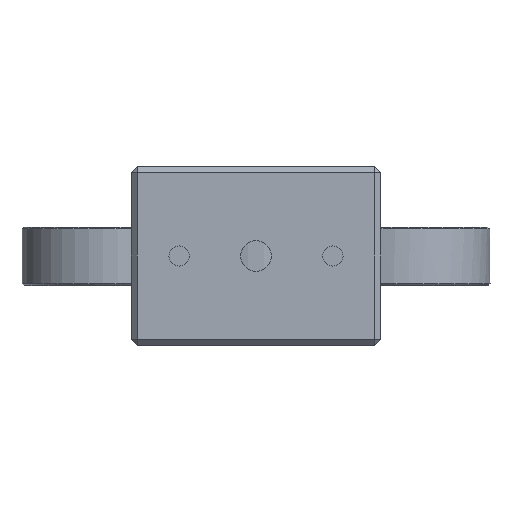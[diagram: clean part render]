
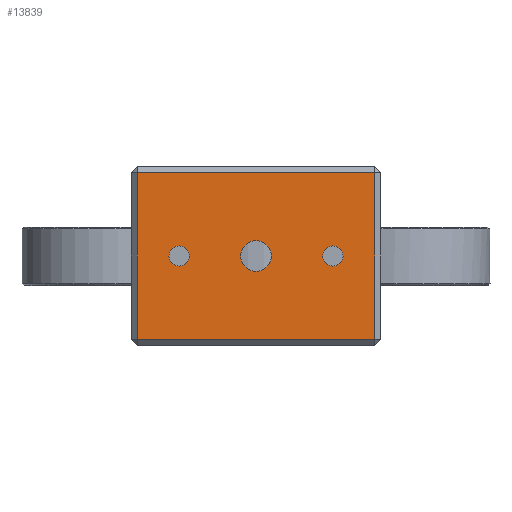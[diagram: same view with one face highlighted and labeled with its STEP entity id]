
A CAD part, front view. The second image highlights one B-rep face of the part: STEP entity #13839.
In plain terms, the highlighted planar face has unit normal (0, -1, 0).
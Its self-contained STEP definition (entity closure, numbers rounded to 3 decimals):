
#15 = VERTEX_POINT ( 'NONE', #321 ) ;
#72 = EDGE_CURVE ( 'NONE', #8073, #19564, #811, .T. ) ;
#74 = FACE_OUTER_BOUND ( 'NONE', #13796, .T. ) ;
#286 = EDGE_LOOP ( 'NONE', ( #15670, #4358 ) ) ;
#321 = CARTESIAN_POINT ( 'NONE',  ( -12.5, 0., -1.65 ) ) ;
#811 = LINE ( 'NONE', #19183, #19359 ) ;
#929 = VERTEX_POINT ( 'NONE', #17205 ) ;
#940 = EDGE_CURVE ( 'NONE', #8424, #12593, #11294, .T. ) ;
#1093 = EDGE_CURVE ( 'NONE', #19564, #929, #11899, .T. ) ;
#1250 = AXIS2_PLACEMENT_3D ( 'NONE', #12526, #11317, #1891 ) ;
#1538 = AXIS2_PLACEMENT_3D ( 'NONE', #6298, #8019, #4585 ) ;
#1891 = DIRECTION ( 'NONE',  ( 0., 0., -1. ) ) ;
#1954 = EDGE_CURVE ( 'NONE', #15, #8237, #18413, .T. ) ;
#2097 = ORIENTED_EDGE ( 'NONE', *, *, #72, .T. ) ;
#2184 = ORIENTED_EDGE ( 'NONE', *, *, #16082, .T. ) ;
#2234 = DIRECTION ( 'NONE',  ( 0., 0., -1. ) ) ;
#2899 = EDGE_LOOP ( 'NONE', ( #19398, #6167 ) ) ;
#3211 = DIRECTION ( 'NONE',  ( 0., 0., 1. ) ) ;
#3414 = DIRECTION ( 'NONE',  ( 0., 1., 0. ) ) ;
#3606 = CIRCLE ( 'NONE', #9095, 2.5 ) ;
#3816 = CIRCLE ( 'NONE', #1538, 2.5 ) ;
#4039 = CARTESIAN_POINT ( 'NONE',  ( 0., 0., 0. ) ) ;
#4358 = ORIENTED_EDGE ( 'NONE', *, *, #19006, .F. ) ;
#4575 = CIRCLE ( 'NONE', #7150, 1.65 ) ;
#4585 = DIRECTION ( 'NONE',  ( 0., 0., -1. ) ) ;
#4712 = ORIENTED_EDGE ( 'NONE', *, *, #1954, .F. ) ;
#4729 = CARTESIAN_POINT ( 'NONE',  ( 0., 0., 14.5 ) ) ;
#4824 = CARTESIAN_POINT ( 'NONE',  ( 12.5, 0., -1.65 ) ) ;
#5058 = CARTESIAN_POINT ( 'NONE',  ( 19.3, 0., 14.5 ) ) ;
#5531 = CARTESIAN_POINT ( 'NONE',  ( 0., 0., 2.5 ) ) ;
#6009 = DIRECTION ( 'NONE',  ( 1., 0., 0. ) ) ;
#6167 = ORIENTED_EDGE ( 'NONE', *, *, #10319, .F. ) ;
#6266 = CARTESIAN_POINT ( 'NONE',  ( -12.5, 0., 0. ) ) ;
#6298 = CARTESIAN_POINT ( 'NONE',  ( 0., 0., 0. ) ) ;
#6502 = CARTESIAN_POINT ( 'NONE',  ( 19.3, 0., 13.5 ) ) ;
#7066 = AXIS2_PLACEMENT_3D ( 'NONE', #4729, #3414, #3211 ) ;
#7090 = CARTESIAN_POINT ( 'NONE',  ( 19.3, 0., -13.5 ) ) ;
#7150 = AXIS2_PLACEMENT_3D ( 'NONE', #12576, #18566, #10942 ) ;
#7719 = EDGE_LOOP ( 'NONE', ( #4712, #18749 ) ) ;
#7765 = FACE_BOUND ( 'NONE', #2899, .T. ) ;
#8019 = DIRECTION ( 'NONE',  ( 0., -1., 0. ) ) ;
#8072 = FACE_BOUND ( 'NONE', #7719, .T. ) ;
#8073 = VERTEX_POINT ( 'NONE', #6502 ) ;
#8237 = VERTEX_POINT ( 'NONE', #8675 ) ;
#8424 = VERTEX_POINT ( 'NONE', #4824 ) ;
#8457 = CARTESIAN_POINT ( 'NONE',  ( 0., 0., -2.5 ) ) ;
#8675 = CARTESIAN_POINT ( 'NONE',  ( -12.5, 0., 1.65 ) ) ;
#9095 = AXIS2_PLACEMENT_3D ( 'NONE', #4039, #13076, #2234 ) ;
#9201 = DIRECTION ( 'NONE',  ( 0., -1., 0. ) ) ;
#9612 = DIRECTION ( 'NONE',  ( 0., 0., 1. ) ) ;
#10130 = DIRECTION ( 'NONE',  ( -1., 0., 0. ) ) ;
#10308 = VECTOR ( 'NONE', #18408, 1000. ) ;
#10319 = EDGE_CURVE ( 'NONE', #15031, #18217, #3816, .T. ) ;
#10401 = ORIENTED_EDGE ( 'NONE', *, *, #18437, .T. ) ;
#10562 = VERTEX_POINT ( 'NONE', #7090 ) ;
#10942 = DIRECTION ( 'NONE',  ( 0., 0., -1. ) ) ;
#11294 = CIRCLE ( 'NONE', #1250, 1.65 ) ;
#11317 = DIRECTION ( 'NONE',  ( 0., -1., 0. ) ) ;
#11657 = AXIS2_PLACEMENT_3D ( 'NONE', #13491, #17969, #16639 ) ;
#11899 = LINE ( 'NONE', #16775, #10308 ) ;
#11906 = AXIS2_PLACEMENT_3D ( 'NONE', #6266, #9201, #15605 ) ;
#12526 = CARTESIAN_POINT ( 'NONE',  ( 12.5, 0., 0. ) ) ;
#12576 = CARTESIAN_POINT ( 'NONE',  ( 12.5, 0., 0. ) ) ;
#12593 = VERTEX_POINT ( 'NONE', #20050 ) ;
#12675 = CIRCLE ( 'NONE', #11657, 1.65 ) ;
#13076 = DIRECTION ( 'NONE',  ( 0., -1., 0. ) ) ;
#13251 = CARTESIAN_POINT ( 'NONE',  ( -19.3, 0., 13.5 ) ) ;
#13491 = CARTESIAN_POINT ( 'NONE',  ( -12.5, 0., 0. ) ) ;
#13624 = VECTOR ( 'NONE', #6009, 1000. ) ;
#13796 = EDGE_LOOP ( 'NONE', ( #17677, #10401, #2184, #2097 ) ) ;
#13839 = ADVANCED_FACE ( 'NONE', ( #7765, #13962, #8072, #74 ), #15687, .F. ) ;
#13948 = VECTOR ( 'NONE', #9612, 1000. ) ;
#13962 = FACE_BOUND ( 'NONE', #286, .T. ) ;
#15031 = VERTEX_POINT ( 'NONE', #5531 ) ;
#15043 = LINE ( 'NONE', #16563, #13624 ) ;
#15605 = DIRECTION ( 'NONE',  ( 0., 0., -1. ) ) ;
#15670 = ORIENTED_EDGE ( 'NONE', *, *, #940, .F. ) ;
#15687 = PLANE ( 'NONE',  #7066 ) ;
#16082 = EDGE_CURVE ( 'NONE', #10562, #8073, #18876, .T. ) ;
#16563 = CARTESIAN_POINT ( 'NONE',  ( 0., 0., -13.5 ) ) ;
#16639 = DIRECTION ( 'NONE',  ( 0., 0., -1. ) ) ;
#16775 = CARTESIAN_POINT ( 'NONE',  ( -19.3, 0., -14.5 ) ) ;
#17205 = CARTESIAN_POINT ( 'NONE',  ( -19.3, 0., -13.5 ) ) ;
#17666 = EDGE_CURVE ( 'NONE', #8237, #15, #12675, .T. ) ;
#17677 = ORIENTED_EDGE ( 'NONE', *, *, #1093, .T. ) ;
#17969 = DIRECTION ( 'NONE',  ( 0., -1., 0. ) ) ;
#18217 = VERTEX_POINT ( 'NONE', #8457 ) ;
#18408 = DIRECTION ( 'NONE',  ( 0., 0., -1. ) ) ;
#18413 = CIRCLE ( 'NONE', #11906, 1.65 ) ;
#18437 = EDGE_CURVE ( 'NONE', #929, #10562, #15043, .T. ) ;
#18566 = DIRECTION ( 'NONE',  ( 0., -1., 0. ) ) ;
#18749 = ORIENTED_EDGE ( 'NONE', *, *, #17666, .F. ) ;
#18876 = LINE ( 'NONE', #5058, #13948 ) ;
#19006 = EDGE_CURVE ( 'NONE', #12593, #8424, #4575, .T. ) ;
#19096 = EDGE_CURVE ( 'NONE', #18217, #15031, #3606, .T. ) ;
#19183 = CARTESIAN_POINT ( 'NONE',  ( -20.3, 0., 13.5 ) ) ;
#19359 = VECTOR ( 'NONE', #10130, 1000. ) ;
#19398 = ORIENTED_EDGE ( 'NONE', *, *, #19096, .F. ) ;
#19564 = VERTEX_POINT ( 'NONE', #13251 ) ;
#20050 = CARTESIAN_POINT ( 'NONE',  ( 12.5, 0., 1.65 ) ) ;
